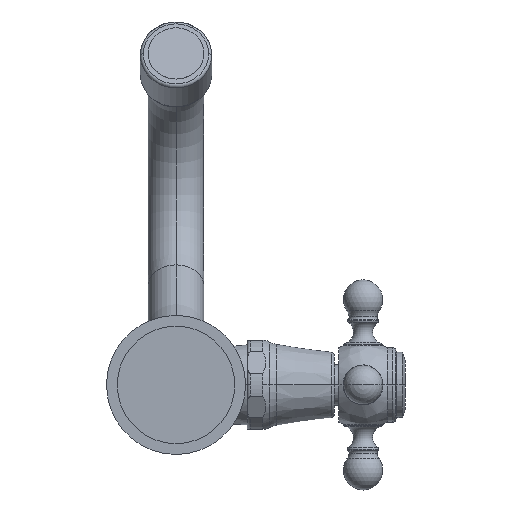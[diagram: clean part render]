
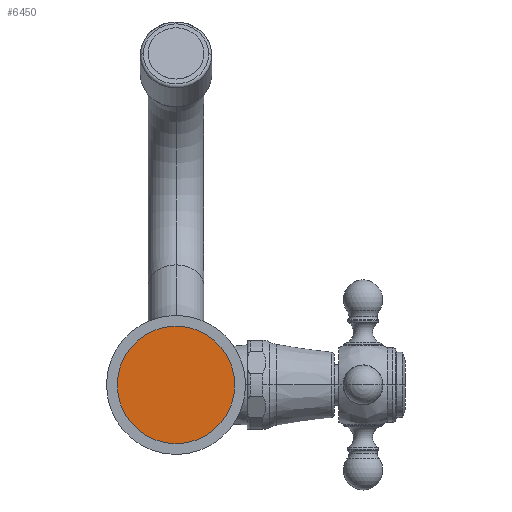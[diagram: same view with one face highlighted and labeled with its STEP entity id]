
A CAD part, front view. The second image highlights one B-rep face of the part: STEP entity #6450.
In plain terms, the highlighted planar face has unit normal (0, -1, 0).
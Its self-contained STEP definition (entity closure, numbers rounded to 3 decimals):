
#6403=CARTESIAN_POINT('',(0.,-0.7,0.));
#6404=DIRECTION('',(0.,1.,0.));
#6405=DIRECTION('',(1.,0.,0.));
#6406=AXIS2_PLACEMENT_3D('',#6403,#6404,#6405);
#6408=CARTESIAN_POINT('',(0.,-0.7,0.));
#6409=DIRECTION('',(0.,1.,0.));
#6410=DIRECTION('',(-1.,0.,0.));
#6411=AXIS2_PLACEMENT_3D('',#6408,#6409,#6410);
#6431=CARTESIAN_POINT('',(19.,-0.7,0.));
#6432=CARTESIAN_POINT('',(-19.,-0.7,0.));
#6433=VERTEX_POINT('',#6431);
#6434=VERTEX_POINT('',#6432);
#6439=CARTESIAN_POINT('',(0.,-0.7,0.));
#6440=DIRECTION('',(0.,1.,0.));
#6441=DIRECTION('',(1.,0.,0.));
#6442=AXIS2_PLACEMENT_3D('',#6439,#6440,#6441);
#6443=PLANE('',#6442);
#6445=ORIENTED_EDGE('',*,*,#6444,.T.);
#6447=ORIENTED_EDGE('',*,*,#6446,.T.);
#6448=EDGE_LOOP('',(#6445,#6447));
#6449=FACE_OUTER_BOUND('',#6448,.F.);
#6450=ADVANCED_FACE('',(#6449),#6443,.F.);
#6407=CIRCLE('',#6406,19.);
#6412=CIRCLE('',#6411,19.);
#6444=EDGE_CURVE('',#6433,#6434,#6407,.T.);
#6446=EDGE_CURVE('',#6434,#6433,#6412,.T.);
